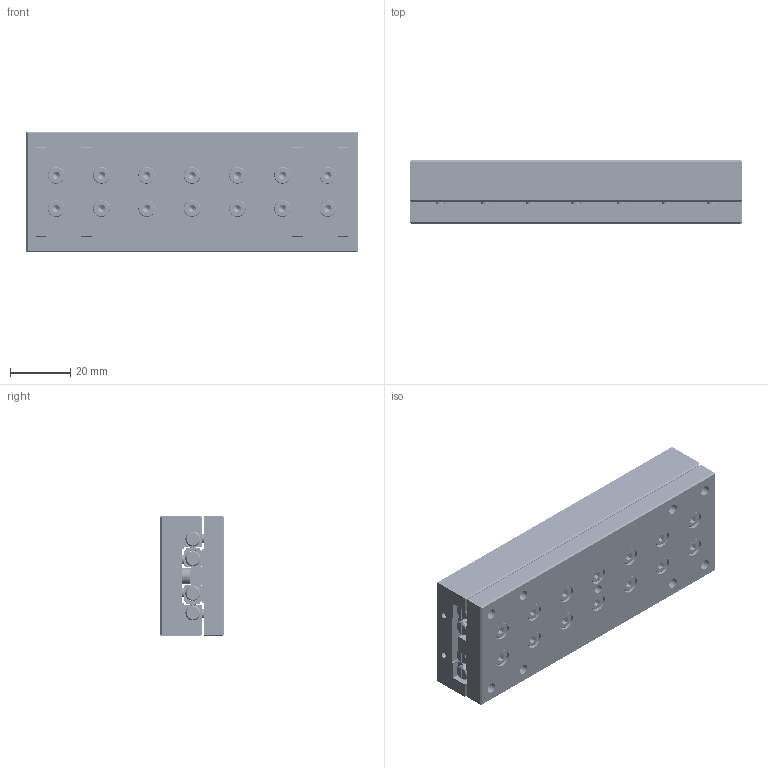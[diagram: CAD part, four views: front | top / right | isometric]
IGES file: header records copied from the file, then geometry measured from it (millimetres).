
Start section: SolidWorks IGES file using analytic representation for surfaces
Global section: file name: C:\Documents and Settings\IanO.IANOHOME\My Documents\Wix and Auto CAD Work\CAD Models\Parametric Models\Auto Models\L1020\L1020_IGES\L1020.040-110.igs; native system: SolidWorks 2009; preprocessor: SolidWorks 2009; author: IanO; date: 110922.162400; units: millimetre
Bounding box: 110 x 21 x 40 mm (x, y, z)
Surface area: 49788.9 mm2 (no closed solid volume)
Topology: 0 solids, 0 shells, 1941 faces, 25544 edges, 25474 vertices
Faces by surface type: bspline 1191, revolution 750
